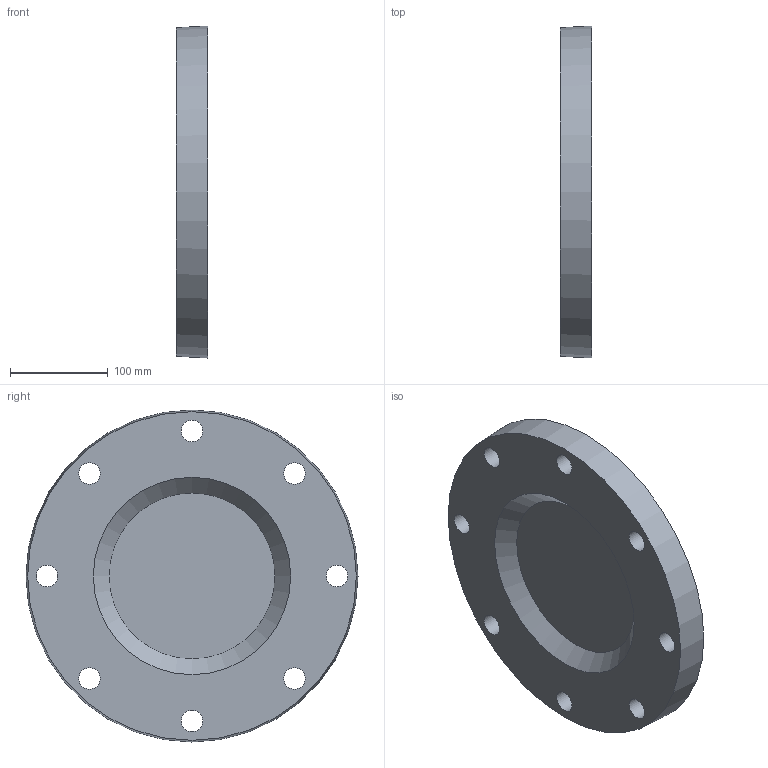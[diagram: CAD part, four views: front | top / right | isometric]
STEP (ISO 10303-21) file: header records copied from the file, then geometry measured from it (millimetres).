
FILE_DESCRIPTION(/* description */ ('PLASSON BLANK FLANGE PVC 225'),/* implementation_level */ '2;1');
FILE_NAME(/* name */ 'C:\Dropbox\KIMPROJECTS-Inventor\99-16-3568-Processing\PVC Catalog 2017\059100\059100225.ipt.stp',/* time_stamp */ '2017-12-07T16:06:56+02:00',/* author */ ('KIM'),/* organization */ (''),/* preprocessor_version */ 'ST-DEVELOPER v15.6',/* originating_system */ 'Autodesk Inventor 2015',/* authorisation */ '');
FILE_SCHEMA (('AUTOMOTIVE_DESIGN { 1 0 10303 214 3 1 1 }'));
Length unit declared in the file: millimetre
Products named in the file (1): 059100225
Bounding box: 32 x 340 x 340 mm (x, y, z)
Volume: 2341311.1 mm3; surface area: 231606.8 mm2
Topology: 1 solids, 1 shells, 25 faces, 48 edges, 32 vertices
Faces by surface type: cylinder 14, plane 9, cone 2
Full cylindrical faces by diameter (mm): 22 x8, 170 x1, 173.4 x1, 176.8 x1, 180.2 x1, 183.6 x1, 187 x1
Entity records: 630 total; most frequent: DIRECTION 116, CARTESIAN_POINT 90, EDGE_LOOP 64, ORIENTED_EDGE 64, AXIS2_PLACEMENT_3D 58, FACE_BOUND 39, CIRCLE 32, VERTEX_POINT 32
